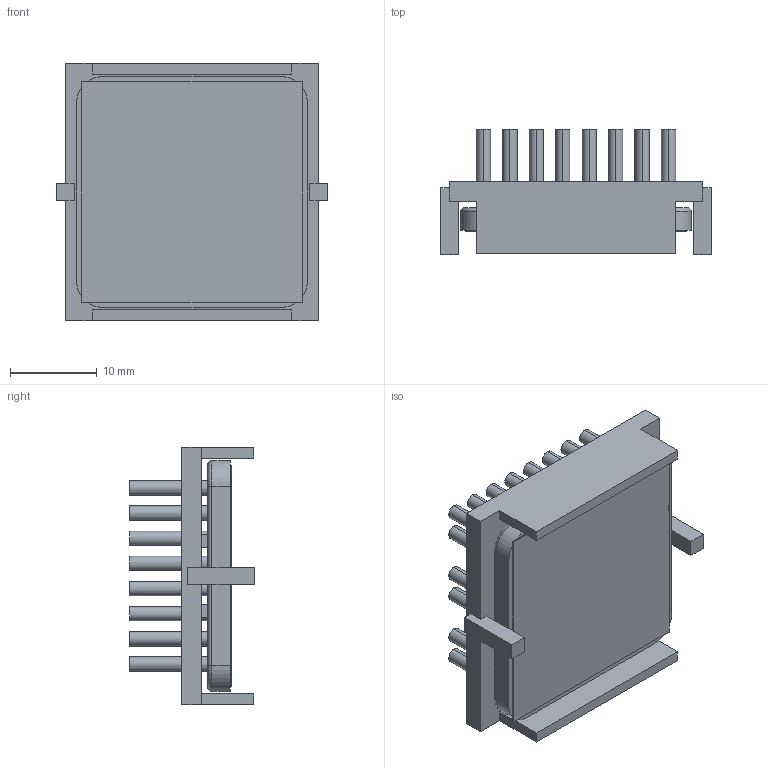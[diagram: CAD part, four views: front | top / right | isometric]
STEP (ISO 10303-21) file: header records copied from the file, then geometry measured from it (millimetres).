
FILE_DESCRIPTION (( 'STEP AP214' ), '1' );
FILE_NAME ('INM27002-12P-2.6K32.STEP', '2023-02-17T20:36:53', ( '' ), ( '' ), 'SwSTEP 2.0', 'SolidWorks 2020', '' );
FILE_SCHEMA (( 'AUTOMOTIVE_DESIGN' ));
Length unit declared in the file: inch
Products named in the file (1): INM27002-12P-2.6K32
Bounding box: 31.2 x 14.4 x 29.7 mm (x, y, z)
Volume: 4260.4 mm3; surface area: 7621.3 mm2
Topology: 3 solids, 3 shells, 246 faces, 544 edges, 360 vertices
Faces by surface type: plane 122, cylinder 120, torus 4
Entity records: 10132 total; most frequent: DIRECTION 1282, CARTESIAN_POINT 1151, ORIENTED_EDGE 1088, EDGE_CURVE 544, AXIS2_PLACEMENT_3D 491, VERTEX_POINT 360, EDGE_LOOP 304, LINE 300
